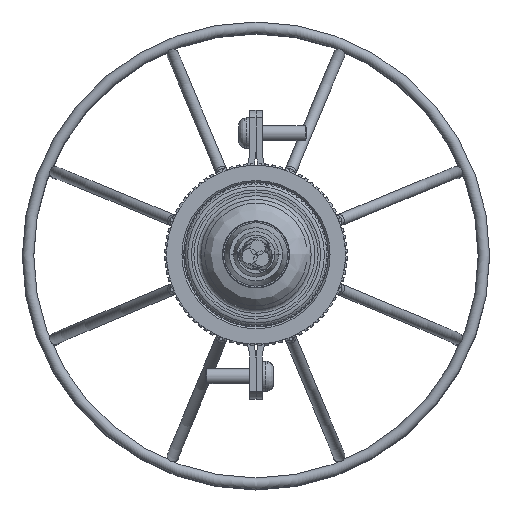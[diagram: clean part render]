
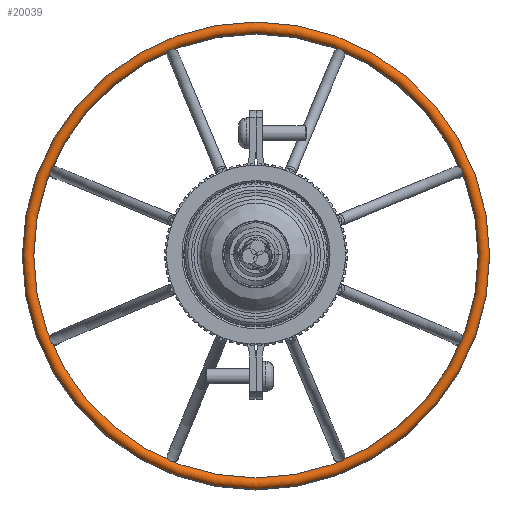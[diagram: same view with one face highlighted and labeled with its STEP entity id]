
A CAD part, top view. The second image highlights one B-rep face of the part: STEP entity #20039.
In plain terms, the highlighted toroidal (fillet/blend) face has major radius 60 mm and minor radius 1.5 mm.
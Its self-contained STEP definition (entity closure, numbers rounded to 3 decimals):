
#646=TOROIDAL_SURFACE($,#22475,60.,1.5);
#3026=FACE_OUTER_BOUND($,#4330,.T.);
#4330=EDGE_LOOP($,(#18109,#18111,#18110,#18112));
#7296=CIRCLE($,#22476,1.5);
#7297=CIRCLE($,#22477,61.5);
#9192=VERTEX_POINT($,#49429);
#12181=EDGE_CURVE($,#9192,#9192,#7296,.T.);
#12182=EDGE_CURVE($,#9192,#9192,#7297,.T.);
#18109=ORIENTED_EDGE($,*,*,#12181,.T.);
#18110=ORIENTED_EDGE($,*,*,#12181,.F.);
#18111=ORIENTED_EDGE($,*,*,#12182,.T.);
#18112=ORIENTED_EDGE($,*,*,#12182,.F.);
#20039=ADVANCED_FACE($,(#3026),#646,.T.);
#22475=AXIS2_PLACEMENT_3D($,#49426,#28153,#28154);
#22476=AXIS2_PLACEMENT_3D($,#49427,#28155,#28156);
#22477=AXIS2_PLACEMENT_3D($,#49428,#28157,#28158);
#28153=DIRECTION('center_axis',(0.,1.,0.));
#28154=DIRECTION('ref_axis',(0.,0.,1.));
#28155=DIRECTION('center_axis',(-1.,0.,0.));
#28156=DIRECTION('ref_axis',(0.,0.,1.));
#28157=DIRECTION('center_axis',(0.,-1.,0.));
#28158=DIRECTION('ref_axis',(0.,0.,1.));
#49426=CARTESIAN_POINT('Origin',(-5.,0.,0.));
#49427=CARTESIAN_POINT('Origin',(-5.,0.,60.));
#49428=CARTESIAN_POINT('Origin',(-5.,0.,0.));
#49429=CARTESIAN_POINT('',(-5.,0.,61.5));
